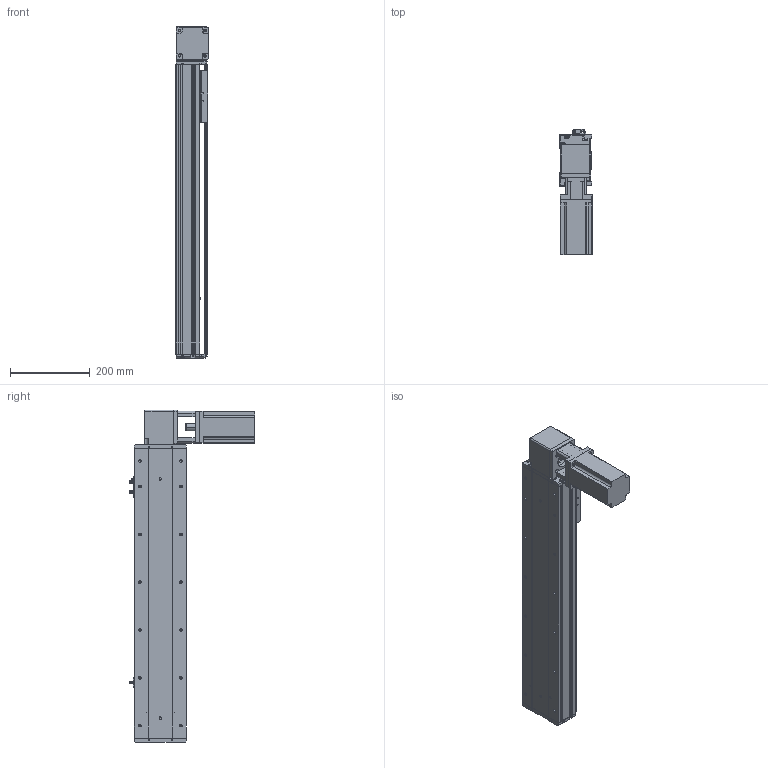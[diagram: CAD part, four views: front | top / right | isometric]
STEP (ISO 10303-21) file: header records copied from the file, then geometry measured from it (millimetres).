
FILE_DESCRIPTION (( 'STEP AP214' ), '1' );
FILE_NAME ('KSD130B-S500-MLT-CM.STEP', '2019-09-23T02:13:25', ( '微软用户' ), ( '微软中国' ), 'SwSTEP 2.0', 'SolidWorks 2014', '' );
FILE_SCHEMA (( 'AUTOMOTIVE_DESIGN' ));
Length unit declared in the file: millimetre
Products named in the file (12): KSD130B-S500-MLT-CM; 台达ECMA－C20807AS伺服电机; 130宽马达安装板1-带电机座750W（1）; 覜茼え100遵圉猾敕; U倰嫖萇EEㄜSX672; 130宽安装板同步带带电机座750W; 130宽盖板半封闭同步带-500行程; 130宽马达安装板同步带左-改; 130宽马达安装板同步带半封闭; 130宽同步带安装座半封闭; 130宽端盖同步带半封闭; 130宽底板半封闭同步带-500行程
Assembly tree (13 placements, depth 2):
  KSD130B-S500-MLT-CM
    130宽底板半封闭同步带-500行程
    130宽端盖同步带半封闭
    130宽同步带安装座半封闭
    130宽马达安装板同步带半封闭
    130宽马达安装板同步带左-改
    130宽盖板半封闭同步带-500行程
    130宽安装板同步带带电机座750W
    U倰嫖萇EEㄜSX672  x3
    覜茼え100遵圉猾敕
    130宽马达安装板1-带电机座750W（1）
    台达ECMA－C20807AS伺服电机
Bounding box: 81 x 316 x 833 mm (x, y, z)
Volume: 3613810.3 mm3; surface area: 899126.4 mm2
Topology: 14 solids, 14 shells, 1409 faces, 3972 edges, 2551 vertices
Faces by surface type: cylinder 667, plane 593, cone 149
Entity records: 45255 total; most frequent: CARTESIAN_POINT 8169, DIRECTION 6934, ORIENTED_EDGE 6644, EDGE_CURVE 3322, AXIS2_PLACEMENT_3D 2528, VERTEX_POINT 2175, VECTOR 1878, LINE 1878
